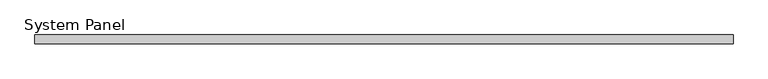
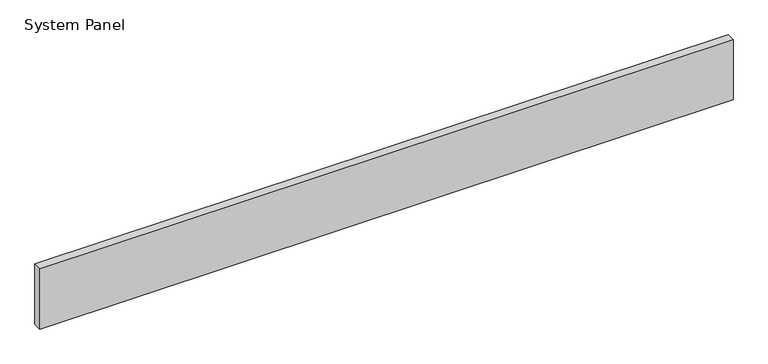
"""IFC4 building model written with IfcOpenShell, lengths in millimetres: plate geometry, System Panel : MetecnoPanel_150mm_Plain_Surfmist."""

from ifc_helpers import new_model, si_unit, origin, origin_with_axes, place, context, project, spatial, polyline, outline, extrude, source, transform, mapped, element, save


def system_panel_884e9603(model_context):
    return source(origin(), model_context, "Body", "SweptSolid", [
        extrude(outline(polyline([(6000.0, 0.0), (-6000.0, 0.0), (-6000.0, 150.0), (6000.0, 150.0), (6000.0, 0.0)])), origin_with_axes(), (0.0, 0.0, 1.0), 1100.0),
    ])


if __name__ == "__main__":
    model = new_model("IFC4")
    model_context = context("Model", 3, world=origin())
    ifc_project = project(units=[si_unit("LENGTHUNIT", "METRE", prefix="MILLI")], contexts=[model_context])
    site = spatial("IfcSite", under=ifc_project)
    building = spatial("IfcBuilding", under=site)
    placement = place(None, origin())
    system_panel_shape = system_panel_884e9603(model_context)
    element("IfcPlate", 1, ObjectType="System Panel : MetecnoPanel_150mm_Plain_Surfmist", at=placement, inside=building, context=model_context, shape_type="MappedRepresentation", body=[
        mapped(system_panel_shape, transform((0.0, 0.0, 0.0), x_axis=(1.0, 0.0, 0.0), y_axis=(0.0, 1.0, 0.0), z_axis=(0.0, 0.0, 1.0))),
    ])
    save(model, "model.ifc")
